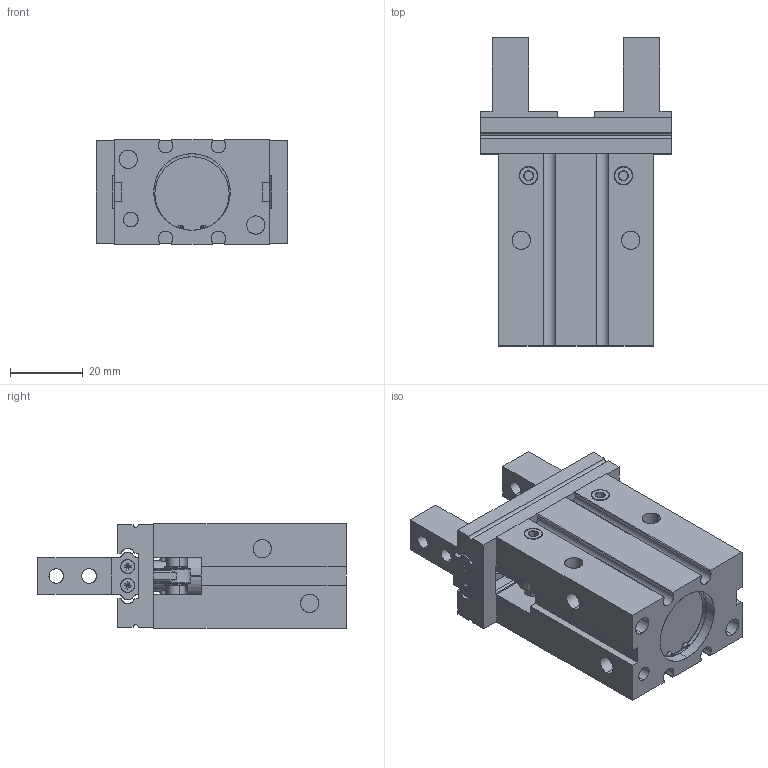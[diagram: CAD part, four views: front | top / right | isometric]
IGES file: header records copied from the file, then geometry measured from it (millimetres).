
Start section: SolidWorks IGES file using analytic representation for surfaces
Global section: file name: D:\Documents\Mechanics\solidwork file\table4\Gripper igs.IGS; native system: SolidWorks 2010; preprocessor: SolidWorks 2010; author: Hosseini; date: 120821.100430; units: millimetre
Bounding box: 52.5 x 84.53 x 28.6 mm (x, y, z)
Surface area: 37357.3 mm2 (no closed solid volume)
Topology: 0 solids, 0 shells, 1195 faces, 13854 edges, 13822 vertices
Faces by surface type: bspline 630, revolution 565
